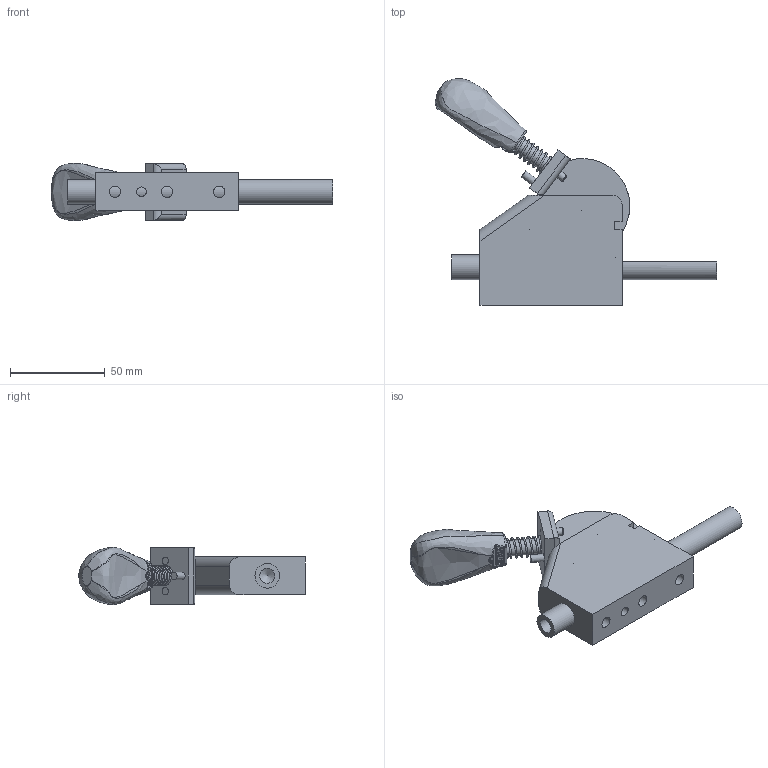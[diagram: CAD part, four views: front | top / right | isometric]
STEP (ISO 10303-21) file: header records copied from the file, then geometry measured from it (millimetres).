
FILE_DESCRIPTION(/* description */ (''),/* implementation_level */ '2;1');
FILE_NAME(/* name */ '\\192.168.1.150\pc03\Inventor\デュアルメカニズムクランプ最終\2017.10月　最新型\YSP-50ST-L\YSP-50ST-L-UNCLAMP.stp',/* time_stamp */ '2024-05-15T08:04:08+09:00',/* author */ ('Backup'),/* organization */ (''),/* preprocessor_version */ 'ST-DEVELOPER v17',/* originating_system */ 'Autodesk Inventor 2019',/* authorisation */ '');
FILE_SCHEMA (('AUTOMOTIVE_DESIGN { 1 0 10303 214 3 1 1 }'));
Length unit declared in the file: millimetre
Products named in the file (10): YSP-50ST-CLAMP; YO-M35S ボディ; 50-30_VER4_PG2__12; Φ8×40ｼｬﾌﾄ; YO-M35S　カム; YO－M３５S スライドバー; φ4×25; ロック機構; φ4×25_1; スプリング
Assembly tree (10 placements, depth 2):
  YSP-50ST-CLAMP
    YO-M35S ボディ
    50-30_VER4_PG2__12
    Φ8×40ｼｬﾌﾄ
    YO-M35S　カム
    YO－M３５S スライドバー
    φ4×25  x2
    ロック機構
    φ4×25_1
    スプリング
Bounding box: 148.69 x 119.45 x 30.18 mm (x, y, z)
Volume: 105352.9 mm3; surface area: 42511.5 mm2
Topology: 10 solids, 10 shells, 234 faces, 639 edges, 423 vertices
Faces by surface type: plane 115, cylinder 84, bspline 25, cone 6, sphere 4
Full cylindrical faces by diameter (mm): 0.01 x11, 1.306 x1, 3.2 x2, 4 x7, 4.1 x1, 5 x3, 5.1 x1, 6 x4, 8 x3, 8.1 x1, 13 x2
Entity records: 19000 total; most frequent: CARTESIAN_POINT 12775, ORIENTED_EDGE 1258, DIRECTION 1180, EDGE_CURVE 629, AXIS2_PLACEMENT_3D 423, VERTEX_POINT 420, LINE 334, VECTOR 334
